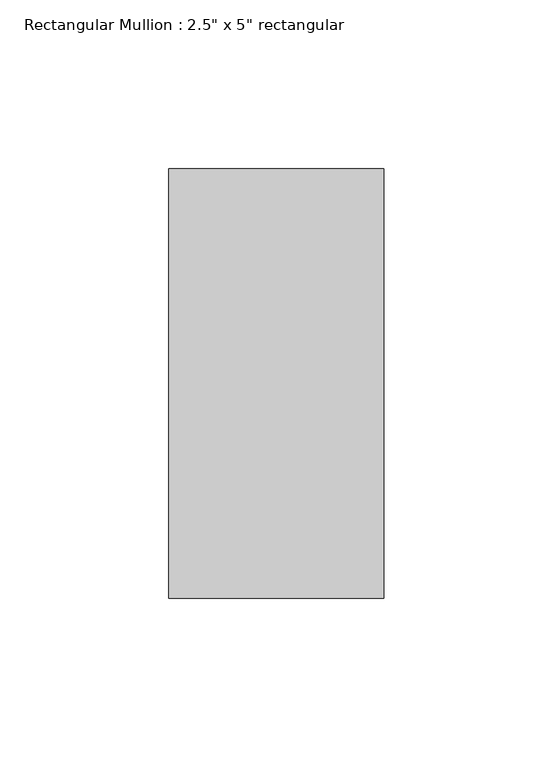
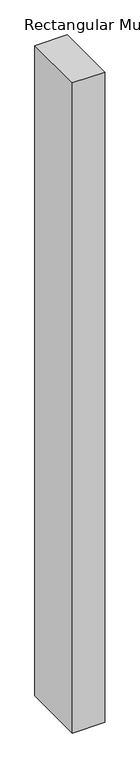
"""IFC4 building model written with IfcOpenShell, lengths in millimetres: member geometry."""

import ifcopenshell
import ifcopenshell.guid

model = None  # the IFC model being written
_history = None  # IfcOwnerHistory: only IFC2X3 demands one
_inside = {}  # id of a spatial element -> (the spatial element, [elements in it])
_under = {}  # id of a project, library or spatial element -> (it, [spatial elements below it])
_declared = {}  # id of a project -> (the project, [libraries it declares])
_typed = {}  # id of a type object -> (the type object, [elements of that type])
_made_of = {}  # id of a material, layer set ... -> (it, [elements and type objects made of it])


def new_model(schema):
    """Start an empty IFC model of exactly this schema.

    Asked for "IFC4X3", IfcOpenShell would pick the latest addendum, in which some entities
    have other attributes; the version numbers below select the first issue.
    IFC2X3 requires an IfcOwnerHistory on every rooted entity: one is made here for all.
    """
    global model, _history
    if schema == "IFC4X3":
        model = ifcopenshell.file(schema_version=(4, 3, 0, 0))
    else:
        model = ifcopenshell.file(schema=schema)
    _inside.clear()
    _under.clear()
    _declared.clear()
    _typed.clear()
    _made_of.clear()
    _history = None
    if model.schema == "IFC2X3":
        org = make("IfcOrganization", Name="unknown")
        user = make(
            "IfcPersonAndOrganization",
            ThePerson=make("IfcPerson", FamilyName="unknown"),
            TheOrganization=org,
        )
        app = make(
            "IfcApplication",
            ApplicationDeveloper=org,
            Version="unknown",
            ApplicationFullName="unknown",
            ApplicationIdentifier="unknown",
        )
        _history = make(
            "IfcOwnerHistory",
            OwningUser=user,
            OwningApplication=app,
            ChangeAction="ADDED",
            CreationDate=0,
        )
    return model


def make(cls, **values):
    """One entity of the class cls with the attributes given. An attribute that is None is left unset."""
    return model.create_entity(
        cls, **{name: value for name, value in values.items() if value is not None}
    )


def rooted(cls, **values):
    """An entity with a GlobalId (a new one), such as an element, a storey or a relation."""
    return make(cls, GlobalId=ifcopenshell.guid.new(), OwnerHistory=_history, **values)


def si_unit(unit_type, name, prefix=None):
    """IfcSIUnit, for example si_unit("LENGTHUNIT", "METRE", prefix="MILLI")."""
    return make("IfcSIUnit", UnitType=unit_type, Prefix=prefix, Name=name)


def assignment(units):
    """IfcUnitAssignment: the units of a project."""
    return None if units is None else make("IfcUnitAssignment", Units=units)


def point(xyz):
    """IfcCartesianPoint."""
    return None if xyz is None else make("IfcCartesianPoint", Coordinates=xyz)


def direction(xyz):
    """IfcDirection."""
    return None if xyz is None else make("IfcDirection", DirectionRatios=xyz)


def frame(location, z_axis=None, x_axis=None):
    """IfcAxis2Placement3D, a coordinate frame: its origin and axes. An axis left out is left unset."""
    return make(
        "IfcAxis2Placement3D",
        Location=point(location),
        Axis=direction(z_axis),
        RefDirection=direction(x_axis),
    )


def origin():
    """The frame at (0, 0, 0) with its axes left unset."""
    return frame((0.0, 0.0, 0.0))


def place(relative_to, where):
    """IfcLocalPlacement: puts the frame where relative to a parent placement (None: the world)."""
    return make(
        "IfcLocalPlacement", PlacementRelTo=relative_to, RelativePlacement=where
    )


def context(
    kind, dimensions, precision=None, world=None, true_north=None, identifier=None
):
    """IfcGeometricRepresentationContext, for example the 3D "Model" context."""
    return make(
        "IfcGeometricRepresentationContext",
        ContextIdentifier=identifier,
        ContextType=kind,
        CoordinateSpaceDimension=dimensions,
        Precision=precision,
        WorldCoordinateSystem=world,
        TrueNorth=true_north,
    )


def project(units=None, contexts=None):
    """IfcProject with its units and contexts."""
    return rooted(
        "IfcProject",
        Name="project",
        RepresentationContexts=contexts,
        UnitsInContext=assignment(units),
    )


def spatial(cls, under=None, at=None, **own):
    """A site, building, storey or space (cls), placed at a placement, below another one or the project."""
    s = rooted(cls, ObjectPlacement=at, **own)
    if under is not None:
        _under.setdefault(under.id(), (under, []))[1].append(s)
    return s


def polyline(points):
    """IfcPolyline through the points."""
    return make("IfcPolyline", Points=[point(p) for p in points])


def outline(outer, holes=None, kind="AREA"):
    """IfcArbitraryClosedProfileDef: a profile drawn as a closed curve; with holes, ...WithVoids."""
    if holes is None:
        return make("IfcArbitraryClosedProfileDef", ProfileType=kind, OuterCurve=outer)
    return make(
        "IfcArbitraryProfileDefWithVoids",
        ProfileType=kind,
        OuterCurve=outer,
        InnerCurves=holes,
    )


def extrude(swept, where, along, depth):
    """IfcExtrudedAreaSolid: the profile swept, set in the frame where, extruded along a direction by depth."""
    return make(
        "IfcExtrudedAreaSolid",
        SweptArea=swept,
        Position=where,
        ExtrudedDirection=direction(along),
        Depth=depth,
    )


def shape(context_of_items, identifier, shape_type, items):
    """IfcShapeRepresentation: the items that make up one representation, for example the "Body"."""
    return make(
        "IfcShapeRepresentation",
        ContextOfItems=context_of_items,
        RepresentationIdentifier=identifier,
        RepresentationType=shape_type,
        Items=items,
    )


def source(mapping_origin, context_of_items, identifier, shape_type, items):
    """IfcRepresentationMap: a shape defined once, which mapped items show again and again."""
    return make(
        "IfcRepresentationMap",
        MappingOrigin=mapping_origin,
        MappedRepresentation=shape(context_of_items, identifier, shape_type, items),
    )


def transform(
    local_origin,
    x_axis=None,
    y_axis=None,
    z_axis=None,
    scale=None,
    scale2=None,
    scale3=None,
    uniform=True,
):
    """IfcCartesianTransformationOperator3D, or its non-uniform kind. x_axis, y_axis, z_axis: its Axis1, 2, 3."""
    if uniform:
        return make(
            "IfcCartesianTransformationOperator3D",
            Axis1=direction(x_axis),
            Axis2=direction(y_axis),
            LocalOrigin=point(local_origin),
            Scale=scale,
            Axis3=direction(z_axis),
        )
    return make(
        "IfcCartesianTransformationOperator3DnonUniform",
        Axis1=direction(x_axis),
        Axis2=direction(y_axis),
        LocalOrigin=point(local_origin),
        Scale=scale,
        Axis3=direction(z_axis),
        Scale2=scale2,
        Scale3=scale3,
    )


def mapped(mapping_source, mapping_target):
    """IfcMappedItem: shows the shape of a source again, moved by a transform."""
    return make(
        "IfcMappedItem", MappingSource=mapping_source, MappingTarget=mapping_target
    )


def made_of(thing, what):
    """Note that an element or type object is made of a material, layer set ...; save() writes the relation."""
    if what is not None:
        _made_of.setdefault(what.id(), (what, []))[1].append(thing)
    return thing


def element(
    cls,
    number,
    at=None,
    inside=None,
    cuts=None,
    type_object=None,
    material=None,
    context=None,
    identifier="Body",
    shape_type=None,
    held_by="IfcProductDefinitionShape",
    body=None,
    shapes=None,
    **own,
):
    """One element of the class cls, such as IfcWall. Its Tag is "e" and its number.

    at: its placement. inside: the storey or other place that contains it. cuts: it is an
    opening in that element (IfcRelVoidsElement). A single representation is given by context,
    identifier, shape_type and body (its items); several are given by shapes. held_by: the class
    of the entity that holds the representations. save() writes the other relations.
    """
    e = rooted(cls, Tag="e%d" % number, ObjectPlacement=at, **own)
    if body is not None:
        shapes = [shape(context, identifier, shape_type, body)]
    if shapes is not None:
        e.Representation = make(held_by, Representations=shapes)
    if inside is not None:
        _inside.setdefault(inside.id(), (inside, []))[1].append(e)
    if cuts is not None:
        rooted(
            "IfcRelVoidsElement", RelatingBuildingElement=cuts, RelatedOpeningElement=e
        )
    if type_object is not None:
        _typed.setdefault(type_object.id(), (type_object, []))[1].append(e)
    return made_of(e, material)


def aggregate(whole, parts):
    """IfcRelAggregates: a whole, such as a stair, and the parts it consists of."""
    return rooted("IfcRelAggregates", RelatingObject=whole, RelatedObjects=parts)


def save(model, path):
    """Write the relations noted so far, then the file.

    IfcRelAggregates (storeys below a building ...), IfcRelContainedInSpatialStructure (elements
    in a storey), IfcRelDefinesByType, IfcRelAssociatesMaterial and IfcRelDeclares: one each for
    every whole, place, type object, material and project.
    """
    for whole, parts in _under.values():
        aggregate(whole, parts)
    for where, things in _inside.values():
        rooted(
            "IfcRelContainedInSpatialStructure",
            RelatedElements=things,
            RelatingStructure=where,
        )
    for kind, things in _typed.values():
        rooted("IfcRelDefinesByType", RelatedObjects=things, RelatingType=kind)
    for what, things in _made_of.values():
        rooted("IfcRelAssociatesMaterial", RelatedObjects=things, RelatingMaterial=what)
    for by, libraries in _declared.values():
        rooted("IfcRelDeclares", RelatingContext=by, RelatedDefinitions=libraries)
    model.write(path)


def member_f5bed8cf(model_context):
    return source(origin(), model_context, "Body", "SweptSolid", [
        extrude(outline(polyline([(0.0, 63.5), (0.0, -63.5), (-63.5, -63.5), (-63.5, 63.5), (0.0, 63.5)])), frame((0.0, 0.0, -1344.0833334), z_axis=(0.0, 0.0, 1.0), x_axis=(1.0, 0.0, 0.0)), (0.0, 0.0, 1.0), 1344.0833334),
    ])


if __name__ == "__main__":
    model = new_model("IFC4")
    model_context = context("Model", 3, world=origin())
    ifc_project = project(units=[si_unit("LENGTHUNIT", "METRE", prefix="MILLI")], contexts=[model_context])
    site = spatial("IfcSite", under=ifc_project)
    building = spatial("IfcBuilding", under=site)
    placement = place(None, origin())
    member_shape = member_f5bed8cf(model_context)
    element("IfcMember", 1, ObjectType="Rectangular Mullion : 2.5\" x 5\" rectangular", at=placement, inside=building, context=model_context, shape_type="MappedRepresentation", body=[
        mapped(member_shape, transform((0.0, 0.0, 0.0), x_axis=(1.0, 0.0, 0.0), y_axis=(0.0, 1.0, 0.0), z_axis=(0.0, 0.0, 1.0))),
    ])
    save(model, "model.ifc")
